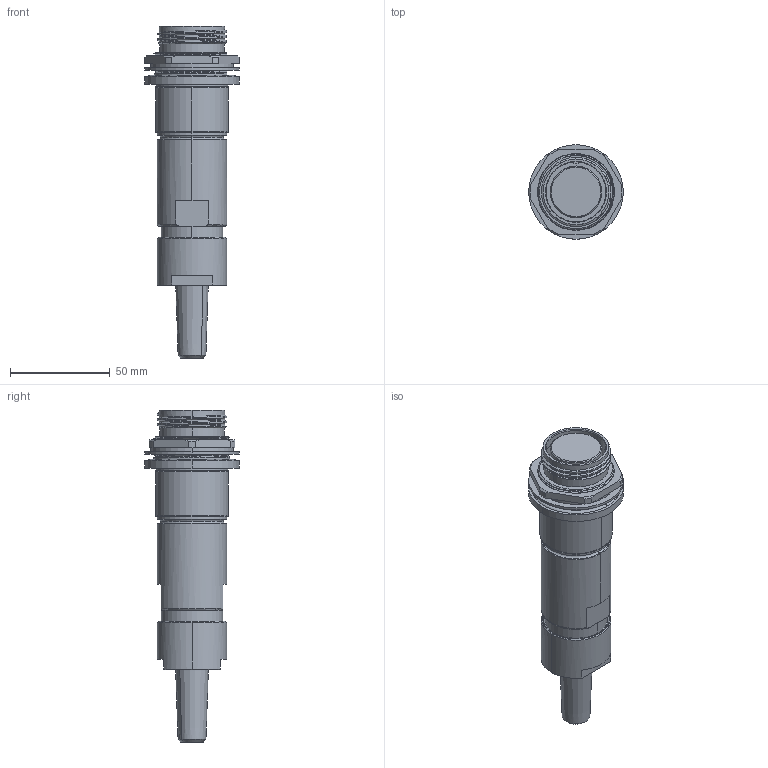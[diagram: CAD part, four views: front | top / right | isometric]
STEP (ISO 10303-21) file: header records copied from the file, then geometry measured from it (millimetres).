
FILE_DESCRIPTION (( 'STEP AP214' ), '1' );
FILE_NAME ('QLINK-RJTX-21XX-SXXX.STEP', '2025-09-30T22:04:52', ( '' ), ( '' ), 'SwSTEP 2.0', 'SolidWorks 2024', '' );
FILE_SCHEMA (( 'AUTOMOTIVE_DESIGN' ));
Length unit declared in the file: inch
Products named in the file (1): QLINK-RJTX-21XX-SXXX
Bounding box: 47.37 x 47.37 x 166.39 mm (x, y, z)
Volume: 128607.3 mm3; surface area: 31639.3 mm2
Topology: 2 solids, 2 shells, 223 faces, 574 edges, 368 vertices
Faces by surface type: cylinder 77, plane 46, cone 43, bspline 35, torus 22
Entity records: 17523 total; most frequent: CARTESIAN_POINT 12505, ORIENTED_EDGE 1148, DIRECTION 953, EDGE_CURVE 574, AXIS2_PLACEMENT_3D 397, VERTEX_POINT 368, EDGE_LOOP 246, FACE_OUTER_BOUND 223
